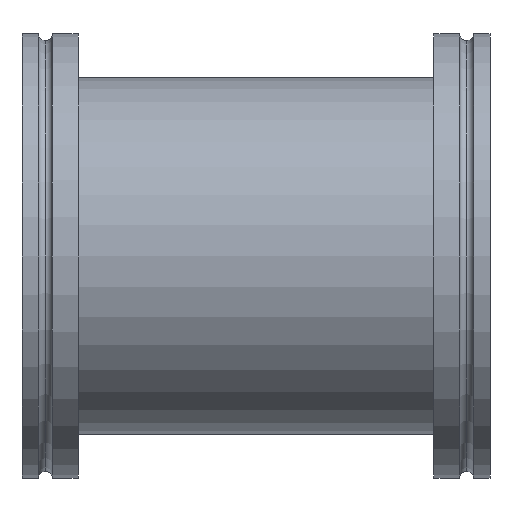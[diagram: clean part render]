
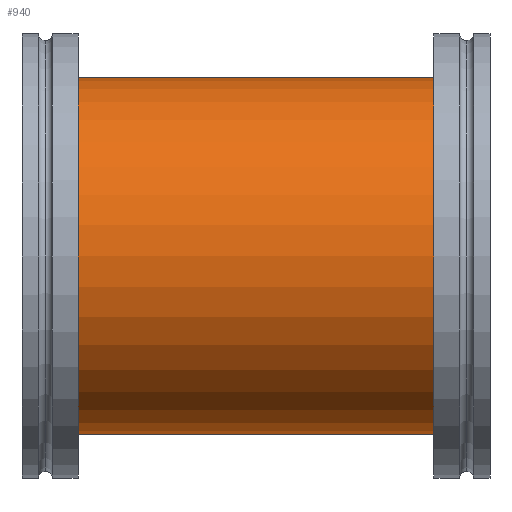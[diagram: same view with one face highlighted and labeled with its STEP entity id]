
A CAD part, left-side view. The second image highlights one B-rep face of the part: STEP entity #940.
In plain terms, the highlighted cylindrical face has radius 38.05 mm (diameter 76.1 mm), a partial arc.
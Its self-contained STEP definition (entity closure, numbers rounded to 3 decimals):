
#137 = FACE_OUTER_BOUND ( 'NONE', #543, .T. ) ;
#169 = ORIENTED_EDGE ( 'NONE', *, *, #505, .F. ) ;
#189 = LINE ( 'NONE', #916, #732 ) ;
#219 = DIRECTION ( 'NONE',  ( 0., 0., -1. ) ) ;
#226 = AXIS2_PLACEMENT_3D ( 'NONE', #612, #417, #970 ) ;
#264 = CARTESIAN_POINT ( 'NONE',  ( 0., 8., -38.05 ) ) ;
#300 = DIRECTION ( 'NONE',  ( 0., 0., 1. ) ) ;
#338 = VERTEX_POINT ( 'NONE', #733 ) ;
#390 = EDGE_CURVE ( 'NONE', #856, #1097, #649, .T. ) ;
#417 = DIRECTION ( 'NONE',  ( 0., 1., 0. ) ) ;
#451 = CYLINDRICAL_SURFACE ( 'NONE', #1099, 38.05 ) ;
#505 = EDGE_CURVE ( 'NONE', #856, #338, #751, .T. ) ;
#509 = ORIENTED_EDGE ( 'NONE', *, *, #1135, .F. ) ;
#543 = EDGE_LOOP ( 'NONE', ( #509, #169, #1114, #936 ) ) ;
#612 = CARTESIAN_POINT ( 'NONE',  ( 0., 8., 0. ) ) ;
#641 = DIRECTION ( 'NONE',  ( 0., -1., 0. ) ) ;
#642 = EDGE_CURVE ( 'NONE', #1097, #650, #700, .T. ) ;
#649 = LINE ( 'NONE', #760, #719 ) ;
#650 = VERTEX_POINT ( 'NONE', #1059 ) ;
#660 = DIRECTION ( 'NONE',  ( 0., -1., 0. ) ) ;
#700 = CIRCLE ( 'NONE', #226, 38.05 ) ;
#719 = VECTOR ( 'NONE', #660, 1000. ) ;
#732 = VECTOR ( 'NONE', #641, 1000. ) ;
#733 = CARTESIAN_POINT ( 'NONE',  ( 0., 92., 38.05 ) ) ;
#751 = CIRCLE ( 'NONE', #1041, 38.05 ) ;
#760 = CARTESIAN_POINT ( 'NONE',  ( 0., 92., -38.05 ) ) ;
#773 = CARTESIAN_POINT ( 'NONE',  ( 0., 92., -38.05 ) ) ;
#821 = CARTESIAN_POINT ( 'NONE',  ( 0., 92., 0. ) ) ;
#856 = VERTEX_POINT ( 'NONE', #773 ) ;
#916 = CARTESIAN_POINT ( 'NONE',  ( 0., 92., 38.05 ) ) ;
#936 = ORIENTED_EDGE ( 'NONE', *, *, #642, .T. ) ;
#940 = ADVANCED_FACE ( 'NONE', ( #137 ), #451, .T. ) ;
#970 = DIRECTION ( 'NONE',  ( 0., 0., 1. ) ) ;
#1039 = CARTESIAN_POINT ( 'NONE',  ( 0., 92., 0. ) ) ;
#1041 = AXIS2_PLACEMENT_3D ( 'NONE', #1039, #1146, #300 ) ;
#1059 = CARTESIAN_POINT ( 'NONE',  ( 0., 8., 38.05 ) ) ;
#1097 = VERTEX_POINT ( 'NONE', #264 ) ;
#1099 = AXIS2_PLACEMENT_3D ( 'NONE', #821, #1176, #219 ) ;
#1114 = ORIENTED_EDGE ( 'NONE', *, *, #390, .T. ) ;
#1135 = EDGE_CURVE ( 'NONE', #338, #650, #189, .T. ) ;
#1146 = DIRECTION ( 'NONE',  ( 0., 1., 0. ) ) ;
#1176 = DIRECTION ( 'NONE',  ( 0., -1., 0. ) ) ;
